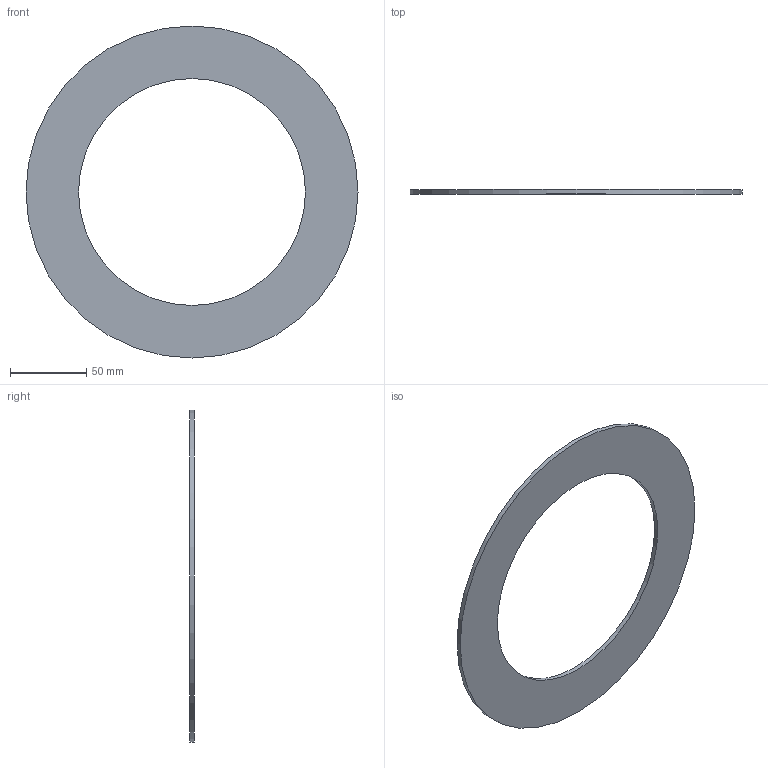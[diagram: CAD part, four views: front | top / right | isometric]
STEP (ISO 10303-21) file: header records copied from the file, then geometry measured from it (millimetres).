
FILE_DESCRIPTION(/* description */ ('Unknown'),/* implementation_level */ '2;1');
FILE_NAME(/* name */ 'GUA.180C',/* time_stamp */ '2021-04-01T12:26:17+02:00',/* author */ ('Unknown'),/* organization */ ('Unknown'),/* preprocessor_version */ 'ST-DEVELOPER v16.7',/* originating_system */ 'Solid Edge',/* authorisation */ 'Unknown');
FILE_SCHEMA (('AUTOMOTIVE_DESIGN {1 0 10303 214 3 1 1}'));
Length unit declared in the file: millimetre
Products named in the file (1): GUA.180C
Bounding box: 218 x 3 x 218 mm (x, y, z)
Volume: 59665.9 mm3; surface area: 43236.2 mm2
Topology: 1 solids, 1 shells, 4 faces, 6 edges, 4 vertices
Faces by surface type: cylinder 2, plane 2
Full cylindrical faces by diameter (mm): 149 x1, 218 x1
Entity records: 118 total; most frequent: DIRECTION 18, CARTESIAN_POINT 13, AXIS2_PLACEMENT_3D 9, ORIENTED_EDGE 8, EDGE_LOOP 8, FACE_BOUND 8, EDGE_CURVE 4, VERTEX_POINT 4
